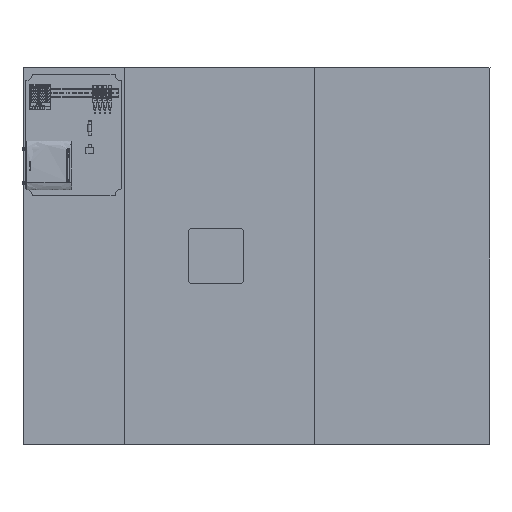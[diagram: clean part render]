
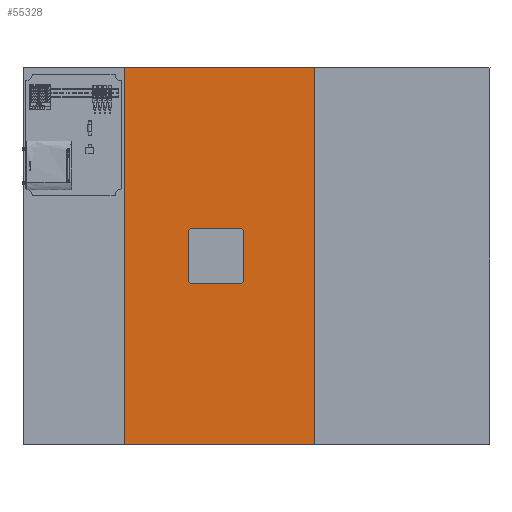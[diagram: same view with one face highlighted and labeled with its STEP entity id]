
A CAD part, top view. The second image highlights one B-rep face of the part: STEP entity #55328.
In plain terms, the highlighted planar face has unit normal (0, 0, 1).
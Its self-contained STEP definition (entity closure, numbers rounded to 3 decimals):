
#1564=FACE_BOUND('',#19623,.T.);
#5692=LINE('',#85908,#11862);
#5696=LINE('',#85915,#11866);
#5704=LINE('',#85932,#11874);
#5706=LINE('',#85936,#11876);
#5708=LINE('',#85940,#11878);
#5711=LINE('',#85945,#11881);
#5712=LINE('',#85947,#11882);
#5713=LINE('',#85949,#11883);
#5717=LINE('',#85959,#11887);
#5726=LINE('',#85976,#11896);
#5727=LINE('',#85979,#11897);
#5728=LINE('',#85980,#11898);
#11862=VECTOR('',#67755,10.);
#11866=VECTOR('',#67761,10.);
#11874=VECTOR('',#67773,10.);
#11876=VECTOR('',#67777,10.);
#11878=VECTOR('',#67781,10.);
#11881=VECTOR('',#67786,10.);
#11882=VECTOR('',#67789,10.);
#11883=VECTOR('',#67792,10.);
#11887=VECTOR('',#67798,10.);
#11896=VECTOR('',#67811,10.);
#11897=VECTOR('',#67814,10.);
#11898=VECTOR('',#67815,10.);
#16444=FACE_OUTER_BOUND('',#19622,.T.);
#19622=EDGE_LOOP('',(#43689,#43690,#43691,#43692));
#19623=EDGE_LOOP('',(#43693,#43694,#43695,#43696,#43697,#43698,#43699,#43700));
#25316=VERTEX_POINT('',#85905);
#25317=VERTEX_POINT('',#85907);
#25319=VERTEX_POINT('',#85913);
#25325=VERTEX_POINT('',#85929);
#25326=VERTEX_POINT('',#85931);
#25327=VERTEX_POINT('',#85935);
#25328=VERTEX_POINT('',#85939);
#25329=VERTEX_POINT('',#85943);
#25333=VERTEX_POINT('',#85956);
#25334=VERTEX_POINT('',#85958);
#25340=VERTEX_POINT('',#85974);
#25341=VERTEX_POINT('',#85978);
#31862=EDGE_CURVE('',#25316,#25317,#5692,.F.);
#31866=EDGE_CURVE('',#25316,#25319,#5696,.T.);
#31874=EDGE_CURVE('',#25325,#25326,#5704,.F.);
#31876=EDGE_CURVE('',#25327,#25326,#5706,.T.);
#31878=EDGE_CURVE('',#25327,#25328,#5708,.F.);
#31881=EDGE_CURVE('',#25329,#25319,#5711,.F.);
#31882=EDGE_CURVE('',#25329,#25328,#5712,.T.);
#31883=EDGE_CURVE('',#25325,#25317,#5713,.T.);
#31887=EDGE_CURVE('',#25333,#25334,#5717,.T.);
#31896=EDGE_CURVE('',#25333,#25340,#5726,.T.);
#31897=EDGE_CURVE('',#25341,#25340,#5727,.T.);
#31898=EDGE_CURVE('',#25334,#25341,#5728,.T.);
#43689=ORIENTED_EDGE('',*,*,#31896,.T.);
#43690=ORIENTED_EDGE('',*,*,#31897,.F.);
#43691=ORIENTED_EDGE('',*,*,#31898,.F.);
#43692=ORIENTED_EDGE('',*,*,#31887,.F.);
#43693=ORIENTED_EDGE('',*,*,#31866,.T.);
#43694=ORIENTED_EDGE('',*,*,#31881,.F.);
#43695=ORIENTED_EDGE('',*,*,#31882,.T.);
#43696=ORIENTED_EDGE('',*,*,#31878,.F.);
#43697=ORIENTED_EDGE('',*,*,#31876,.T.);
#43698=ORIENTED_EDGE('',*,*,#31874,.F.);
#43699=ORIENTED_EDGE('',*,*,#31883,.T.);
#43700=ORIENTED_EDGE('',*,*,#31862,.F.);
#52993=PLANE('',#58695);
#55328=ADVANCED_FACE('',(#16444,#1564),#52993,.T.);
#58695=AXIS2_PLACEMENT_3D('',#85977,#67812,#67813);
#67755=DIRECTION('',(-0.707,-0.707,0.));
#67761=DIRECTION('',(-1.,0.,0.));
#67773=DIRECTION('',(0.707,-0.707,0.));
#67777=DIRECTION('',(1.,0.,0.));
#67781=DIRECTION('',(0.707,0.707,0.));
#67786=DIRECTION('',(-0.707,0.707,0.));
#67789=DIRECTION('',(0.,1.,0.));
#67792=DIRECTION('',(0.,-1.,0.));
#67798=DIRECTION('',(1.,0.,0.));
#67811=DIRECTION('',(0.,-1.,0.));
#67812=DIRECTION('center_axis',(0.,0.,1.));
#67813=DIRECTION('ref_axis',(-1.,0.,0.));
#67814=DIRECTION('',(-1.,0.,0.));
#67815=DIRECTION('',(0.,-1.,0.));
#85905=CARTESIAN_POINT('',(1192.,-110.,35.));
#85907=CARTESIAN_POINT('',(1200.,-102.,35.));
#85908=CARTESIAN_POINT('',(1286.75,-15.25,35.));
#85913=CARTESIAN_POINT('',(988.,-110.,35.));
#85915=CARTESIAN_POINT('',(1216.5,-110.,35.));
#85929=CARTESIAN_POINT('',(1200.,102.,35.));
#85931=CARTESIAN_POINT('',(1192.,110.,35.));
#85932=CARTESIAN_POINT('',(1286.75,15.25,35.));
#85935=CARTESIAN_POINT('',(988.,110.,35.));
#85936=CARTESIAN_POINT('',(1326.5,110.,35.));
#85939=CARTESIAN_POINT('',(980.,102.,35.));
#85940=CARTESIAN_POINT('',(1074.75,196.75,35.));
#85943=CARTESIAN_POINT('',(980.,-102.,35.));
#85945=CARTESIAN_POINT('',(1074.75,-196.75,35.));
#85947=CARTESIAN_POINT('',(980.,55.,35.));
#85949=CARTESIAN_POINT('',(1200.,-55.,35.));
#85956=CARTESIAN_POINT('',(700.,750.,35.));
#85958=CARTESIAN_POINT('',(1453.,750.,35.));
#85959=CARTESIAN_POINT('',(1453.,750.,35.));
#85974=CARTESIAN_POINT('',(700.,-750.,35.));
#85976=CARTESIAN_POINT('',(700.,0.,35.));
#85977=CARTESIAN_POINT('Origin',(1453.,0.,35.));
#85978=CARTESIAN_POINT('',(1453.,-750.,35.));
#85979=CARTESIAN_POINT('',(1453.,-750.,35.));
#85980=CARTESIAN_POINT('',(1453.,0.,35.));
